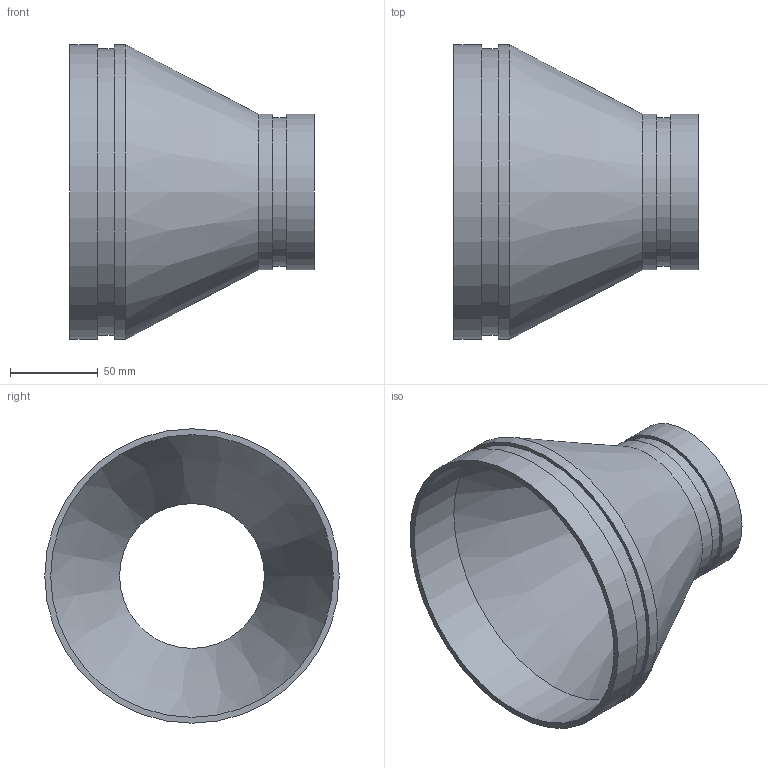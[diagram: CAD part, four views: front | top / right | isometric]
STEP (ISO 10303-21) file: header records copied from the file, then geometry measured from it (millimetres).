
FILE_DESCRIPTION(/* description */ ('VIC REDUCER CONCENTRIC No 450-SS','CAx-IF Rec.Pracs.---Representation and Presentation of Product Manufacturing Information (PMI)---4.0---2014-10-13'),/* implementation_level */ '2;1');
FILE_NAME(/* name */ 'C:\Users\kkamble\AppData\Roaming\Autodesk\ApplicationPlugins\Back Up\Victaulic_SS-OGS_Reducer Concentric_Sched 10S_No 450 SS (OGS)\Victaulic_SS-OGS_Reducer Concentric_Sched 10S_No 450 SS (OGS)_06.0x03.0 (150x80).stp',/* time_stamp */ '2020-09-08T12:33:28+05:00',/* author */ ('CORINNE GRAY'),/* organization */ ('Victaulic'),/* preprocessor_version */ 'ST-DEVELOPER v17.2',/* originating_system */ 'Autodesk Inventor 2019',/* authorisation */ '');
FILE_SCHEMA (('AP242_MANAGED_MODEL_BASED_3D_ENGINEERING_MIM_LF { 1 0 10303 442 1 1 4 }'));
Length unit declared in the file: inch
Products named in the file (1): 450 SS-06.0x03.0
Bounding box: 139.7 x 168.28 x 168.28 mm (x, y, z)
Volume: 163184.7 mm3; surface area: 123370.4 mm2
Topology: 1 solids, 1 shells, 16 faces, 42 edges, 32 vertices
Faces by surface type: cylinder 8, plane 6, cone 2
Full cylindrical faces by diameter (mm): 82.804 x1, 84.938 x1, 88.9 x2, 161.544 x1, 163.957 x1, 168.275 x2
Entity records: 686 total; most frequent: DIRECTION 134, CARTESIAN_POINT 108, ORIENTED_EDGE 84, AXIS2_PLACEMENT_3D 62, EDGE_CURVE 42, CIRCLE 32, VERTEX_POINT 32, EDGE_LOOP 22
